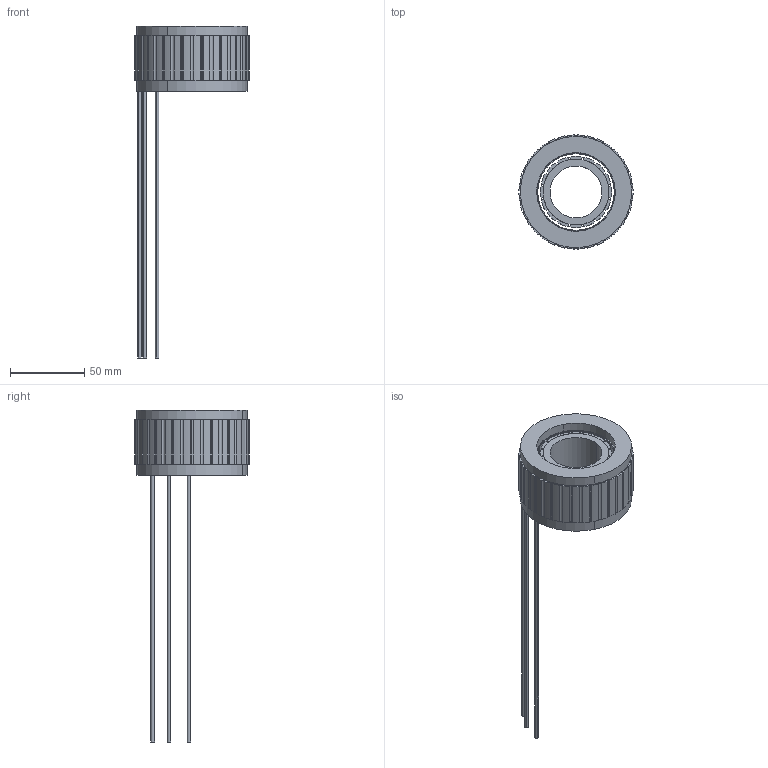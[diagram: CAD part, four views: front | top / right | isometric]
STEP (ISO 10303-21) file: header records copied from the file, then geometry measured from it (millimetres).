
FILE_DESCRIPTION (( 'STEP AP203' ), '1' );
FILE_NAME ('307080284SS(FMC07730-0075-3035N-8DS00)-V1.3.STEP', '2022-12-07T05:44:32', ( 'muse' ), ( 'muse' ), 'SwSTEP 2.0', 'SolidWorks 2022', '' );
FILE_SCHEMA (( 'CONFIG_CONTROL_DESIGN' ));
Length unit declared in the file: millimetre
Products named in the file (6): 307080284SS(FMC07730-0075-3035N-8DS00)-V1.3; 线包; 77包胶; 10108060463（464）磁钢 （77L13.5-16P-N40SH-1）V1.0; 77定子铁芯; 转子铁芯
Assembly tree (54 placements, depth 2):
  307080284SS(FMC07730-0075-3035N-8DS00)-V1.3
    77包胶  x18
    77定子铁芯  x18
    10108060463（464）磁钢 （77L13.5-16P-N40SH-1）V1.0  x16
    线包
    转子铁芯
Bounding box: 76.98 x 76.96 x 224 mm (x, y, z)
Volume: 112841.7 mm3; surface area: 108229.8 mm2
Topology: 55 solids, 55 shells, 1401 faces, 3828 edges, 2504 vertices
Faces by surface type: plane 865, cylinder 536
Entity records: 5373 total; most frequent: DIRECTION 681, CARTESIAN_POINT 600, ORIENTED_EDGE 530, EDGE_CURVE 265, AXIS2_PLACEMENT_3D 255, VERTEX_POINT 174, LINE 171, VECTOR 171
